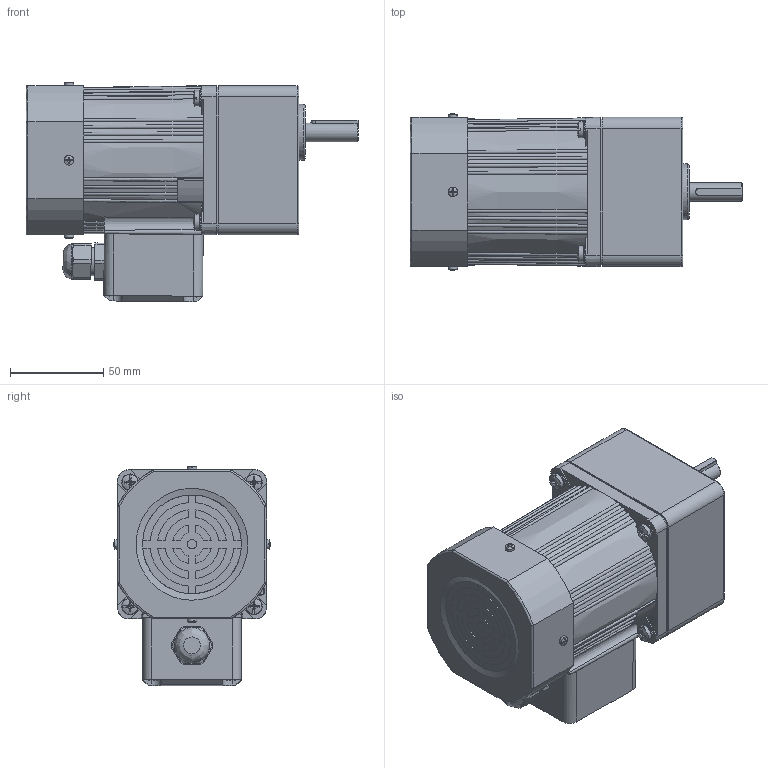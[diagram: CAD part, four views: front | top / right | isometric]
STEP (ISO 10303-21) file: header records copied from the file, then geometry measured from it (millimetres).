
FILE_DESCRIPTION(/* description */ (''),/* implementation_level */ '2;1');
FILE_NAME(/* name */ '4RK25-30GNC·TF-4GN25-750K-C·10L常规接线盒.stp',/* time_stamp */ '2025-04-13T14:25:53+08:00',/* author */ (''),/* organization */ (''),/* preprocessor_version */ 'ST-DEVELOPER v18.102',/* originating_system */ 'SIEMENS PLM Software NX 2027',/* authorisation */ '');
FILE_SCHEMA (('AP203_CONFIGURATION_CONTROLLED_3D_DESIGN_OF_MECHANICAL_PARTS_AND_ASSEMBLIES_MIM_LF { 1 0 10303 403 2 1 2}'));
Length unit declared in the file: millimetre
Products named in the file (1): 4RK25-30CC·F-4GN25-750K-C·10L_stp_objects
Bounding box: 178 x 83.8 x 117.79 mm (x, y, z)
Volume: 847837.8 mm3; surface area: 111397.9 mm2
Topology: 9 solids, 9 shells, 999 faces, 2713 edges, 1772 vertices
Faces by surface type: plane 365, bspline 290, cylinder 203, cone 72, torus 49, sphere 20
Full cylindrical faces by diameter (mm): 4 x5, 4.2 x8, 4.4 x1, 4.5 x4, 4.6 x4, 5 x6, 5.1 x4, 5.3 x4, 5.849 x1, 6 x4, 6.5 x4, 8.5 x4, 9 x5, 10 x1, 10.5 x1, 12 x1, 15 x2, 16 x1, 18 x1, 19 x2, 26 x1, 30 x1, 56 x1, 67 x1, 73 x1, 75 x2, 77.5 x1
Entity records: 37376 total; most frequent: CARTESIAN_POINT 15533, ORIENTED_EDGE 5038, DIRECTION 3295, EDGE_CURVE 2519, VERTEX_POINT 1696, AXIS2_PLACEMENT_3D 1279, EDGE_LOOP 1253, B_SPLINE_CURVE_WITH_KNOTS 1219
